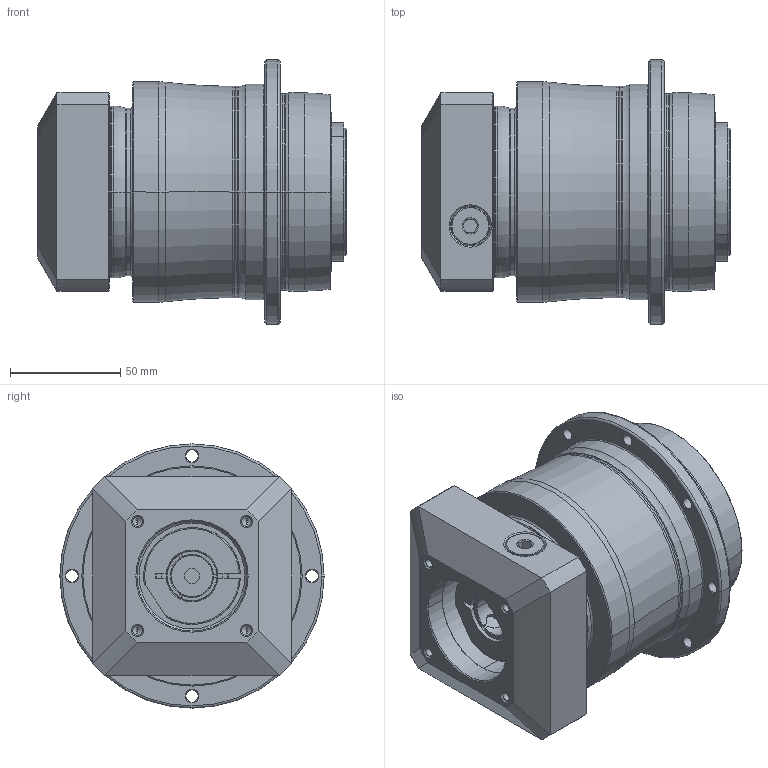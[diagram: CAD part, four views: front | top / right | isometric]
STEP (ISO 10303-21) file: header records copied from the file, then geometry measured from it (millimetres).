
FILE_DESCRIPTION((''),'2;1');
FILE_NAME('AH090_2ST_19-P0409400101_ASM','2016-08-04T',('d01943'),(''),'PRO/ENGINEER BY PARAMETRIC TECHNOLOGY CORPORATION, 2008410','PRO/ENGINEER BY PARAMETRIC TECHNOLOGY CORPORATION, 2008410','');
FILE_SCHEMA(('CONFIG_CONTROL_DESIGN'));
Length unit declared in the file: millimetre
Products named in the file (8): P0278300003; P0359300002; P1317300301; P0409400101; P0503400006; P0912203001; 21711412017; AH090_2ST_19-P0409400101_ASM
Assembly tree (7 placements, depth 2):
  AH090_2ST_19-P0409400101_ASM
    P0278300003
    P0359300002
    P1317300301
    P0409400101
    P0503400006
    P0912203001
    21711412017
Bounding box: 140 x 120 x 120 mm (x, y, z)
Volume: 861573.8 mm3; surface area: 142867.5 mm2
Topology: 8 solids, 8 shells, 525 faces, 1189 edges, 697 vertices
Faces by surface type: cylinder 200, cone 152, plane 95, torus 62, bspline 16
Entity records: 18889 total; most frequent: CARTESIAN_POINT 6923, DIRECTION 2693, ORIENTED_EDGE 2286, EDGE_CURVE 1143, AXIS2_PLACEMENT_3D 1135, VERTEX_POINT 697, EDGE_LOOP 618, CIRCLE 611
